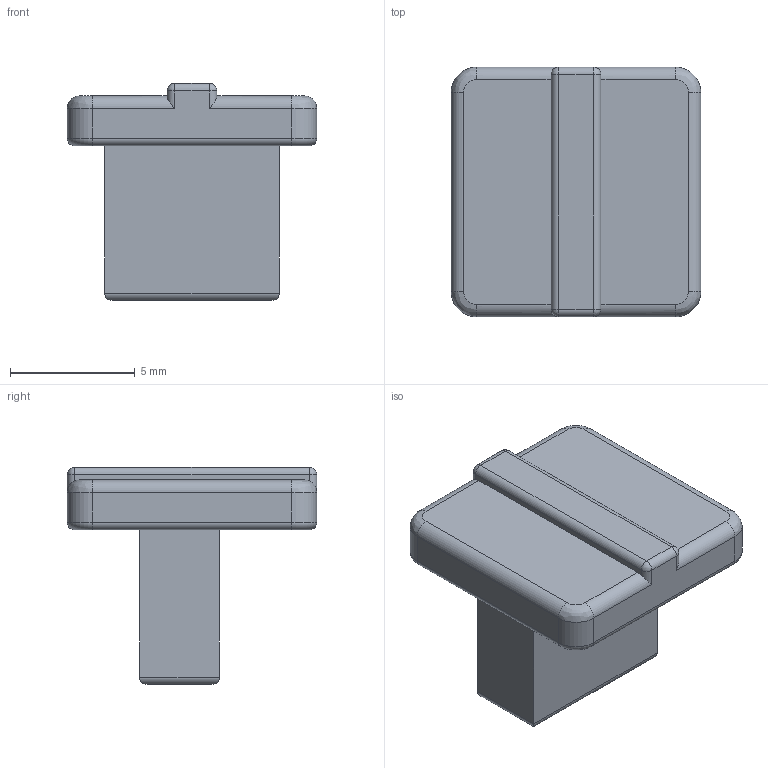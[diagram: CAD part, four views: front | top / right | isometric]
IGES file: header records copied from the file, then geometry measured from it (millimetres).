
Global section: file name: No Iges File Name specified; native system: Autodesk Inventor 2009; preprocessor: AutoDesk Inventor Iges Exporter R2009; author: hide; date: 20090826.065043; units: millimetre
Bounding box: 10 x 10 x 8.7 mm (x, y, z)
Volume: 317.1 mm3; surface area: 447.9 mm2
Topology: 1 solids, 1 shells, 62 faces, 142 edges, 80 vertices
Faces by surface type: cylinder 30, plane 20, bspline 4, sphere 4, torus 4
